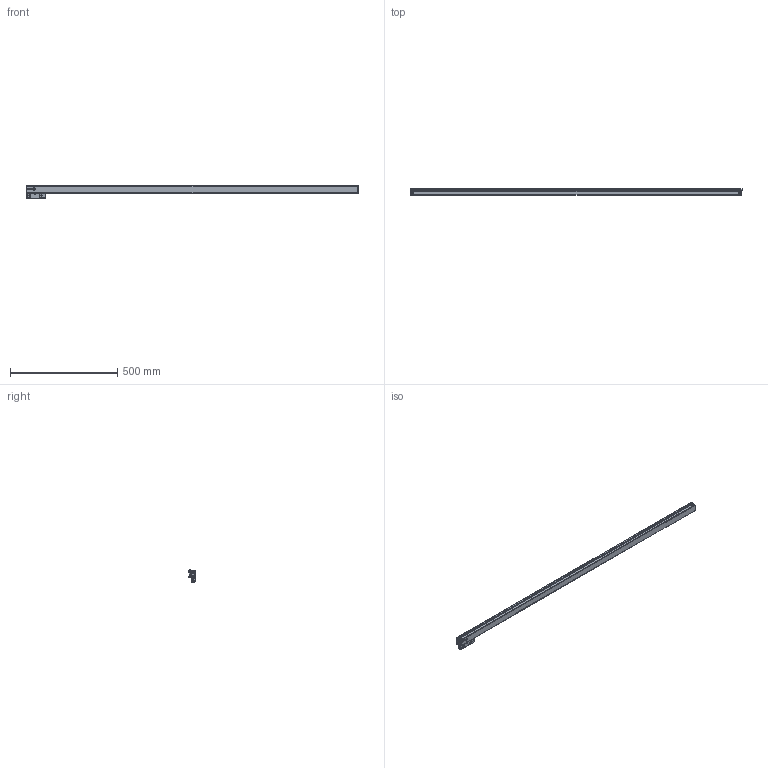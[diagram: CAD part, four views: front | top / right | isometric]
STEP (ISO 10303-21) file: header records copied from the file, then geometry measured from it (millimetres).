
FILE_DESCRIPTION(('Creo Elements/Direct Modeling STEP Export'),'2;1');
FILE_NAME('Regla SV2-1440-T-V01A.stp','2022-11-30T 8:54:27',(''),(''),'Creo Elements/Direct Modeling STEP processor for AP214 (Solid Model)','Creo Elements/Direct Modeling 20.4A 18-Oct-2021 (C) Parametric Technology GmbH','');
FILE_SCHEMA(('AUTOMOTIVE_DESIGN { 1 0 10303 214 1 1 1 1 }'));
Products named in the file (4): SOPORTE_SV3-1440; REGLA_SV2-1440-T; CABEZA_ROSCADA_REGLA_SV2-T; REGLA_SV2-1440-T-V01A
Assembly tree (3 placements, depth 2):
  REGLA_SV2-1440-T-V01A
    CABEZA_ROSCADA_REGLA_SV2-T
    REGLA_SV2-1440-T
    SOPORTE_SV3-1440
Bounding box: 1545 x 28 x 56.2 mm (x, y, z)
Volume: 1205363.3 mm3; surface area: 432184.2 mm2
Topology: 3 solids, 24 shells, 2539 faces, 7259 edges, 4766 vertices
Faces by surface type: plane 1278, cylinder 882, cone 240, bspline 98, torus 34, sphere 4, extrusion 3
Entity records: 95175 total; most frequent: CARTESIAN_POINT 22735, ORIENTED_EDGE 14474, DIRECTION 12199, EDGE_CURVE 7237, VERTEX_POINT 4766, AXIS2_PLACEMENT_3D 4097, VECTOR 4005, LINE 4002
